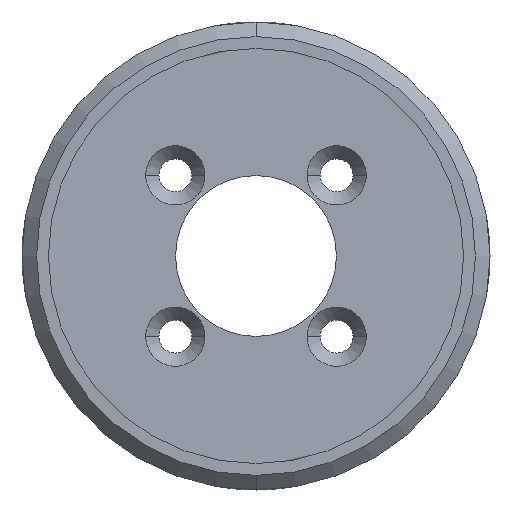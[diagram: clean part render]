
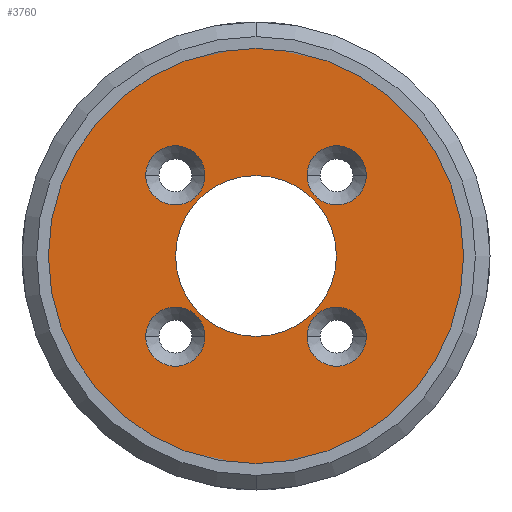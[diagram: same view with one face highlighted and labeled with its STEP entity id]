
A CAD part, front view. The second image highlights one B-rep face of the part: STEP entity #3760.
In plain terms, the highlighted planar face has unit normal (0, -1, 0) as drawn and (0, 0, -1) by its records, which use the part's own axes.
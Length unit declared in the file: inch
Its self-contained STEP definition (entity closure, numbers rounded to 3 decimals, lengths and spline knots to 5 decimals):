
#20 = EDGE_CURVE ( 'NONE', #157, #158, #665, .T. ) ;
#36 = VERTEX_POINT ( 'NONE', #876 ) ;
#38 = EDGE_CURVE ( 'NONE', #36, #39, #875, .T. ) ;
#39 = VERTEX_POINT ( 'NONE', #870 ) ;
#115 = EDGE_LOOP ( 'NONE', ( #116, #117 ) ) ;
#116 = ORIENTED_EDGE ( 'NONE', *, *, #3746, .T. ) ;
#117 = ORIENTED_EDGE ( 'NONE', *, *, #3738, .T. ) ;
#124 = ORIENTED_EDGE ( 'NONE', *, *, #20, .T. ) ;
#125 = ORIENTED_EDGE ( 'NONE', *, *, #126, .F. ) ;
#126 = EDGE_CURVE ( 'NONE', #39, #36, #1038, .T. ) ;
#157 = VERTEX_POINT ( 'NONE', #1288 ) ;
#158 = VERTEX_POINT ( 'NONE', #1287 ) ;
#195 = EDGE_LOOP ( 'NONE', ( #196, #3646 ) ) ;
#196 = ORIENTED_EDGE ( 'NONE', *, *, #3645, .F. ) ;
#202 = ORIENTED_EDGE ( 'NONE', *, *, #38, .F. ) ;
#275 = EDGE_CURVE ( 'NONE', #3693, #3690, #1531, .T. ) ;
#276 = ORIENTED_EDGE ( 'NONE', *, *, #3692, .F. ) ;
#277 = EDGE_LOOP ( 'NONE', ( #278, #280 ) ) ;
#278 = ORIENTED_EDGE ( 'NONE', *, *, #279, .F. ) ;
#279 = EDGE_CURVE ( 'NONE', #3679, #3828, #1522, .T. ) ;
#280 = ORIENTED_EDGE ( 'NONE', *, *, #3834, .F. ) ;
#662 = DIRECTION ( 'NONE',  ( 1., 0., 0. ) ) ;
#663 = DIRECTION ( 'NONE',  ( 0., 0., -1. ) ) ;
#664 = AXIS2_PLACEMENT_3D ( 'NONE', #670, #663, #662 ) ;
#665 = CIRCLE ( 'NONE', #664, 1.875 ) ;
#670 = CARTESIAN_POINT ( 'NONE',  ( 0., 0., 0. ) ) ;
#870 = CARTESIAN_POINT ( 'NONE',  ( -0.94293, 0.68943, 0. ) ) ;
#871 = DIRECTION ( 'NONE',  ( -1., 0., 0. ) ) ;
#872 = DIRECTION ( 'NONE',  ( 0., 0., -1. ) ) ;
#873 = CARTESIAN_POINT ( 'NONE',  ( -0.68943, 0.68943, 0. ) ) ;
#874 = AXIS2_PLACEMENT_3D ( 'NONE', #873, #872, #871 ) ;
#875 = CIRCLE ( 'NONE', #874, 0.2535 ) ;
#876 = CARTESIAN_POINT ( 'NONE',  ( -0.43593, 0.68943, 0. ) ) ;
#1034 = DIRECTION ( 'NONE',  ( -1., 0., 0. ) ) ;
#1035 = DIRECTION ( 'NONE',  ( 0., 0., -1. ) ) ;
#1036 = CARTESIAN_POINT ( 'NONE',  ( -0.68943, 0.68943, 0. ) ) ;
#1037 = AXIS2_PLACEMENT_3D ( 'NONE', #1036, #1035, #1034 ) ;
#1038 = CIRCLE ( 'NONE', #1037, 0.2535 ) ;
#1287 = CARTESIAN_POINT ( 'NONE',  ( 1.875, 0., 0. ) ) ;
#1288 = CARTESIAN_POINT ( 'NONE',  ( -1.875, 0., 0. ) ) ;
#1518 = DIRECTION ( 'NONE',  ( -1., 0., 0. ) ) ;
#1519 = DIRECTION ( 'NONE',  ( 0., 0., -1. ) ) ;
#1520 = CARTESIAN_POINT ( 'NONE',  ( -0.68943, -0.68943, 0. ) ) ;
#1521 = AXIS2_PLACEMENT_3D ( 'NONE', #1520, #1519, #1518 ) ;
#1522 = CIRCLE ( 'NONE', #1521, 0.2535 ) ;
#1523 = DIRECTION ( 'NONE',  ( -1., 0., 0. ) ) ;
#1524 = DIRECTION ( 'NONE',  ( 0., 0., -1. ) ) ;
#1525 = CARTESIAN_POINT ( 'NONE',  ( 0.68943, -0.68943, 0. ) ) ;
#1526 = AXIS2_PLACEMENT_3D ( 'NONE', #1525, #1524, #1523 ) ;
#1531 = CIRCLE ( 'NONE', #1526, 0.2535 ) ;
#3064 = DIRECTION ( 'NONE',  ( -1., 0., 0. ) ) ;
#3065 = DIRECTION ( 'NONE',  ( 0., 0., -1. ) ) ;
#3066 = CARTESIAN_POINT ( 'NONE',  ( 0.68943, 0.68943, 0. ) ) ;
#3067 = AXIS2_PLACEMENT_3D ( 'NONE', #3066, #3065, #3064 ) ;
#3068 = CIRCLE ( 'NONE', #3067, 0.2535 ) ;
#3086 = CARTESIAN_POINT ( 'NONE',  ( 0.43593, -0.68943, 0. ) ) ;
#3087 = DIRECTION ( 'NONE',  ( -1., 0., 0. ) ) ;
#3088 = DIRECTION ( 'NONE',  ( 0., 0., -1. ) ) ;
#3089 = CARTESIAN_POINT ( 'NONE',  ( 0.68943, -0.68943, 0. ) ) ;
#3090 = AXIS2_PLACEMENT_3D ( 'NONE', #3089, #3088, #3087 ) ;
#3091 = CIRCLE ( 'NONE', #3090, 0.2535 ) ;
#3092 = CARTESIAN_POINT ( 'NONE',  ( 0.94293, -0.68943, 0. ) ) ;
#3102 = CARTESIAN_POINT ( 'NONE',  ( 0., 0., 0. ) ) ;
#3103 = AXIS2_PLACEMENT_3D ( 'NONE', #3102, #3144, #3143 ) ;
#3104 = CIRCLE ( 'NONE', #3103, 0.6875 ) ;
#3117 = DIRECTION ( 'NONE',  ( 1., 0., 0. ) ) ;
#3118 = DIRECTION ( 'NONE',  ( 0., 0., 1. ) ) ;
#3119 = CARTESIAN_POINT ( 'NONE',  ( 0., 0., 0. ) ) ;
#3120 = AXIS2_PLACEMENT_3D ( 'NONE', #3119, #3118, #3117 ) ;
#3121 = CIRCLE ( 'NONE', #3120, 0.6875 ) ;
#3142 = CARTESIAN_POINT ( 'NONE',  ( -0.6875, 0., 0. ) ) ;
#3143 = DIRECTION ( 'NONE',  ( 1., 0., 0. ) ) ;
#3144 = DIRECTION ( 'NONE',  ( 0., 0., 1. ) ) ;
#3148 = CARTESIAN_POINT ( 'NONE',  ( 0.43593, 0.68943, 0. ) ) ;
#3149 = DIRECTION ( 'NONE',  ( -1., 0., 0. ) ) ;
#3150 = DIRECTION ( 'NONE',  ( 0., 0., -1. ) ) ;
#3151 = CARTESIAN_POINT ( 'NONE',  ( 0.68943, 0.68943, 0. ) ) ;
#3152 = AXIS2_PLACEMENT_3D ( 'NONE', #3151, #3150, #3149 ) ;
#3153 = CIRCLE ( 'NONE', #3152, 0.2535 ) ;
#3214 = CARTESIAN_POINT ( 'NONE',  ( -0.94293, -0.68943, 0. ) ) ;
#3256 = CARTESIAN_POINT ( 'NONE',  ( 0.94293, 0.68943, 0. ) ) ;
#3307 = FACE_BOUND ( 'NONE', #115, .T. ) ;
#3308 = FACE_BOUND ( 'NONE', #277, .T. ) ;
#3309 = FACE_BOUND ( 'NONE', #3647, .T. ) ;
#3310 = FACE_BOUND ( 'NONE', #195, .T. ) ;
#3311 = FACE_BOUND ( 'NONE', #3768, .T. ) ;
#3312 = FACE_OUTER_BOUND ( 'NONE', #3761, .T. ) ;
#3339 = DIRECTION ( 'NONE',  ( 1., 0., 0. ) ) ;
#3340 = DIRECTION ( 'NONE',  ( 0., 0., -1. ) ) ;
#3341 = CARTESIAN_POINT ( 'NONE',  ( 0., 0., 0. ) ) ;
#3342 = AXIS2_PLACEMENT_3D ( 'NONE', #3341, #3340, #3339 ) ;
#3343 = CIRCLE ( 'NONE', #3342, 1.875 ) ;
#3348 = CARTESIAN_POINT ( 'NONE',  ( -0.43593, -0.68943, 0. ) ) ;
#3394 = DIRECTION ( 'NONE',  ( 1., 0., 0. ) ) ;
#3395 = DIRECTION ( 'NONE',  ( 0., 0., 1. ) ) ;
#3396 = CARTESIAN_POINT ( 'NONE',  ( 0., 0., 0. ) ) ;
#3397 = AXIS2_PLACEMENT_3D ( 'NONE', #3396, #3395, #3394 ) ;
#3398 = PLANE ( 'NONE',  #3397 ) ;
#3420 = DIRECTION ( 'NONE',  ( -1., 0., 0. ) ) ;
#3421 = DIRECTION ( 'NONE',  ( 0., 0., -1. ) ) ;
#3422 = CARTESIAN_POINT ( 'NONE',  ( -0.68943, -0.68943, 0. ) ) ;
#3423 = AXIS2_PLACEMENT_3D ( 'NONE', #3422, #3421, #3420 ) ;
#3424 = CIRCLE ( 'NONE', #3423, 0.2535 ) ;
#3452 = CARTESIAN_POINT ( 'NONE',  ( 0.6875, 0., 0. ) ) ;
#3645 = EDGE_CURVE ( 'NONE', #3712, #3715, #3068, .T. ) ;
#3646 = ORIENTED_EDGE ( 'NONE', *, *, #3708, .F. ) ;
#3647 = EDGE_LOOP ( 'NONE', ( #3648, #276 ) ) ;
#3648 = ORIENTED_EDGE ( 'NONE', *, *, #275, .F. ) ;
#3679 = VERTEX_POINT ( 'NONE', #3214 ) ;
#3690 = VERTEX_POINT ( 'NONE', #3092 ) ;
#3692 = EDGE_CURVE ( 'NONE', #3690, #3693, #3091, .T. ) ;
#3693 = VERTEX_POINT ( 'NONE', #3086 ) ;
#3708 = EDGE_CURVE ( 'NONE', #3715, #3712, #3153, .T. ) ;
#3712 = VERTEX_POINT ( 'NONE', #3148 ) ;
#3715 = VERTEX_POINT ( 'NONE', #3256 ) ;
#3738 = EDGE_CURVE ( 'NONE', #3805, #3747, #3121, .T. ) ;
#3746 = EDGE_CURVE ( 'NONE', #3747, #3805, #3104, .T. ) ;
#3747 = VERTEX_POINT ( 'NONE', #3142 ) ;
#3760 = ADVANCED_FACE ( 'NONE', ( #3312, #3311, #3310, #3309, #3308, #3307 ), #3398, .F. ) ;
#3761 = EDGE_LOOP ( 'NONE', ( #3766, #124 ) ) ;
#3766 = ORIENTED_EDGE ( 'NONE', *, *, #3767, .T. ) ;
#3767 = EDGE_CURVE ( 'NONE', #158, #157, #3343, .T. ) ;
#3768 = EDGE_LOOP ( 'NONE', ( #125, #202 ) ) ;
#3805 = VERTEX_POINT ( 'NONE', #3452 ) ;
#3828 = VERTEX_POINT ( 'NONE', #3348 ) ;
#3834 = EDGE_CURVE ( 'NONE', #3828, #3679, #3424, .T. ) ;
